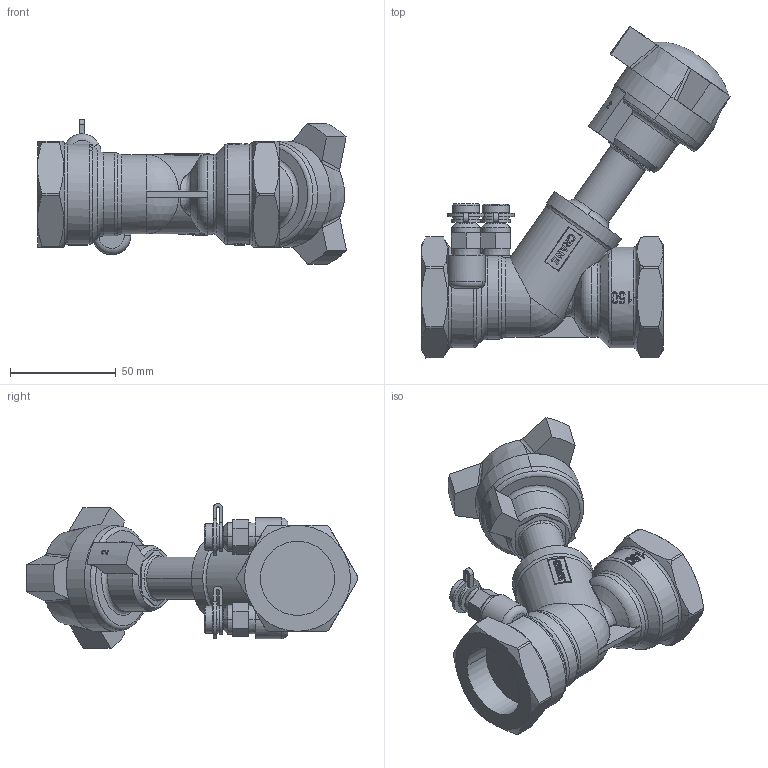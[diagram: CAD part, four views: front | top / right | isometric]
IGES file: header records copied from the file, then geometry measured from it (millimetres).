
Global section: file name: No Iges File Name specified; native system: AutoDesk Inventor R12.0; preprocessor: AutoDesk Inventor Iges Exporter R12.0; date: 20110304.153605; units: millimetre
Bounding box: 145.84 x 156.7 x 68.27 mm (x, y, z)
Volume: 286718.8 mm3; surface area: 45515 mm2
Topology: 1 solids, 1 shells, 875 faces, 2335 edges, 1521 vertices
Faces by surface type: plane 360, bspline 349, cylinder 95, cone 38, torus 18, revolution 13, sphere 2
